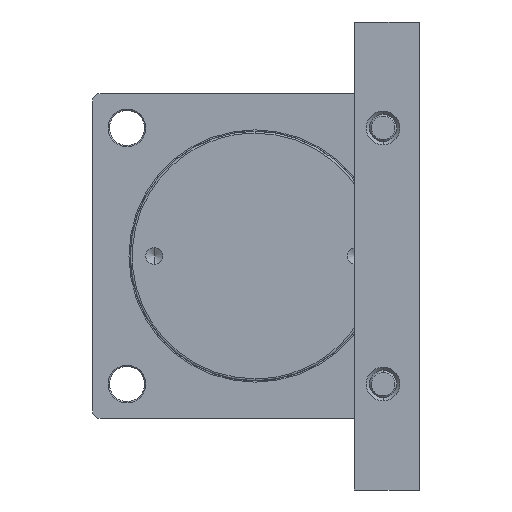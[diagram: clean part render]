
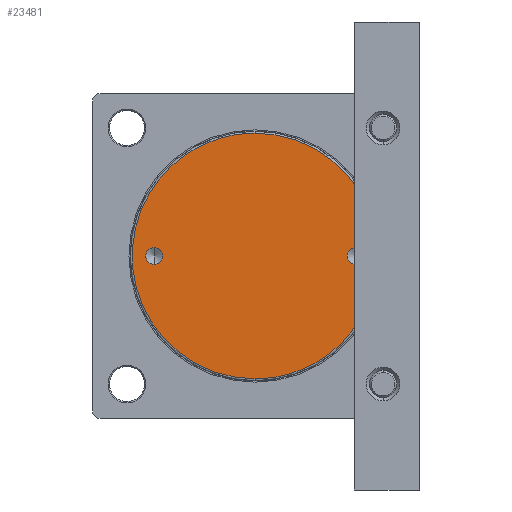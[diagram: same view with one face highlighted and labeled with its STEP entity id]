
A CAD part, left-side view. The second image highlights one B-rep face of the part: STEP entity #23481.
In plain terms, the highlighted planar face has unit normal (-1, 0, 0).
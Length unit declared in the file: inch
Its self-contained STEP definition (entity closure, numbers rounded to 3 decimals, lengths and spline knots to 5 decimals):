
#398 = EDGE_CURVE ( 'NONE', #6994, #8154, #19180, .T. ) ;
#741 = CARTESIAN_POINT ( 'NONE',  ( -1.43701, -3.05118, -0.25591 ) ) ;
#860 = CIRCLE ( 'NONE', #10119, 0.25591 ) ;
#1248 = ORIENTED_EDGE ( 'NONE', *, *, #18886, .F. ) ;
#1499 = CIRCLE ( 'NONE', #22621, 0.25591 ) ;
#1546 = VERTEX_POINT ( 'NONE', #10759 ) ;
#1973 = ORIENTED_EDGE ( 'NONE', *, *, #9008, .F. ) ;
#2319 =( BOUNDED_CURVE ( )  B_SPLINE_CURVE ( 3, ( #19020, #19051, #19003, #18974 ),
 .UNSPECIFIED., .F., .F. ) 
 B_SPLINE_CURVE_WITH_KNOTS ( ( 4, 4 ),
 ( 0., 1. ),
 .UNSPECIFIED. ) 
 CURVE ( )  GEOMETRIC_REPRESENTATION_ITEM ( )  RATIONAL_B_SPLINE_CURVE ( ( 1., 0.333, 0.333, 1. ) ) 
 REPRESENTATION_ITEM ( '' )  );
#2432 = CARTESIAN_POINT ( 'NONE',  ( -1.43701, 0., -3.72047 ) ) ;
#2504 = CARTESIAN_POINT ( 'NONE',  ( -1.43701, -3.05118, 0.25591 ) ) ;
#2935 = EDGE_CURVE ( 'NONE', #1546, #22191, #17897, .T. ) ;
#3440 = FACE_BOUND ( 'NONE', #16452, .T. ) ;
#3482 = EDGE_LOOP ( 'NONE', ( #19960, #10587 ) ) ;
#6641 = EDGE_CURVE ( 'NONE', #22013, #23143, #860, .T. ) ;
#6994 = VERTEX_POINT ( 'NONE', #17030 ) ;
#7557 = CARTESIAN_POINT ( 'NONE',  ( -1.43701, 3.05118, 0.25591 ) ) ;
#7749 = FACE_OUTER_BOUND ( 'NONE', #3482, .T. ) ;
#8154 = VERTEX_POINT ( 'NONE', #2432 ) ;
#9008 = EDGE_CURVE ( 'NONE', #23143, #22013, #1499, .T. ) ;
#9201 = DIRECTION ( 'NONE',  ( 0., 0., -1. ) ) ;
#9235 = DIRECTION ( 'NONE',  ( 1., 0., 0. ) ) ;
#9401 = CARTESIAN_POINT ( 'NONE',  ( -1.43701, 0., 0. ) ) ;
#9635 = PLANE ( 'NONE',  #10548 ) ;
#10119 = AXIS2_PLACEMENT_3D ( 'NONE', #20660, #20627, #20604 ) ;
#10548 = AXIS2_PLACEMENT_3D ( 'NONE', #9401, #9235, #9201 ) ;
#10587 = ORIENTED_EDGE ( 'NONE', *, *, #398, .F. ) ;
#10615 = ORIENTED_EDGE ( 'NONE', *, *, #2935, .F. ) ;
#10759 = CARTESIAN_POINT ( 'NONE',  ( -1.43701, 3.05118, -0.25591 ) ) ;
#12384 = CIRCLE ( 'NONE', #21870, 0.25591 ) ;
#12629 = ORIENTED_EDGE ( 'NONE', *, *, #6641, .F. ) ;
#13636 = EDGE_CURVE ( 'NONE', #8154, #6994, #2319, .T. ) ;
#16452 = EDGE_LOOP ( 'NONE', ( #1248, #10615 ) ) ;
#16669 = AXIS2_PLACEMENT_3D ( 'NONE', #20981, #20956, #20951 ) ;
#16999 = EDGE_LOOP ( 'NONE', ( #1973, #12629 ) ) ;
#17030 = CARTESIAN_POINT ( 'NONE',  ( -1.43701, 0., 3.72047 ) ) ;
#17166 = CARTESIAN_POINT ( 'NONE',  ( -1.43701, -7.44094, -3.72047 ) ) ;
#17897 = CIRCLE ( 'NONE', #16669, 0.25591 ) ;
#18886 = EDGE_CURVE ( 'NONE', #22191, #1546, #12384, .T. ) ;
#18974 = CARTESIAN_POINT ( 'NONE',  ( -1.43701, 0., 3.72047 ) ) ;
#19003 = CARTESIAN_POINT ( 'NONE',  ( -1.43701, 7.44094, 3.72047 ) ) ;
#19020 = CARTESIAN_POINT ( 'NONE',  ( -1.43701, 0., -3.72047 ) ) ;
#19051 = CARTESIAN_POINT ( 'NONE',  ( -1.43701, 7.44094, -3.72047 ) ) ;
#19180 =( BOUNDED_CURVE ( )  B_SPLINE_CURVE ( 3, ( #22547, #22574, #17166, #22407 ),
 .UNSPECIFIED., .F., .F. ) 
 B_SPLINE_CURVE_WITH_KNOTS ( ( 4, 4 ),
 ( 0., 1. ),
 .UNSPECIFIED. ) 
 CURVE ( )  GEOMETRIC_REPRESENTATION_ITEM ( )  RATIONAL_B_SPLINE_CURVE ( ( 1., 0.333, 0.333, 1. ) ) 
 REPRESENTATION_ITEM ( '' )  );
#19960 = ORIENTED_EDGE ( 'NONE', *, *, #13636, .F. ) ;
#20604 = DIRECTION ( 'NONE',  ( 0., 0., 1. ) ) ;
#20608 = DIRECTION ( 'NONE',  ( 0., 0., 1. ) ) ;
#20627 = DIRECTION ( 'NONE',  ( -1., 0., 0. ) ) ;
#20634 = DIRECTION ( 'NONE',  ( -1., 0., 0. ) ) ;
#20660 = CARTESIAN_POINT ( 'NONE',  ( -1.43701, -3.05118, 0. ) ) ;
#20666 = CARTESIAN_POINT ( 'NONE',  ( -1.43701, -3.05118, 0. ) ) ;
#20951 = DIRECTION ( 'NONE',  ( 0., 0., 1. ) ) ;
#20956 = DIRECTION ( 'NONE',  ( -1., 0., 0. ) ) ;
#20981 = CARTESIAN_POINT ( 'NONE',  ( -1.43701, 3.05118, 0. ) ) ;
#21870 = AXIS2_PLACEMENT_3D ( 'NONE', #22642, #22309, #22291 ) ;
#22013 = VERTEX_POINT ( 'NONE', #741 ) ;
#22191 = VERTEX_POINT ( 'NONE', #7557 ) ;
#22291 = DIRECTION ( 'NONE',  ( 0., 0., 1. ) ) ;
#22309 = DIRECTION ( 'NONE',  ( -1., 0., 0. ) ) ;
#22407 = CARTESIAN_POINT ( 'NONE',  ( -1.43701, 0., -3.72047 ) ) ;
#22547 = CARTESIAN_POINT ( 'NONE',  ( -1.43701, 0., 3.72047 ) ) ;
#22574 = CARTESIAN_POINT ( 'NONE',  ( -1.43701, -7.44094, 3.72047 ) ) ;
#22621 = AXIS2_PLACEMENT_3D ( 'NONE', #20666, #20634, #20608 ) ;
#22642 = CARTESIAN_POINT ( 'NONE',  ( -1.43701, 3.05118, 0. ) ) ;
#22660 = FACE_BOUND ( 'NONE', #16999, .T. ) ;
#23143 = VERTEX_POINT ( 'NONE', #2504 ) ;
#23481 = ADVANCED_FACE ( 'NONE', ( #3440, #22660, #7749 ), #9635, .F. ) ;
